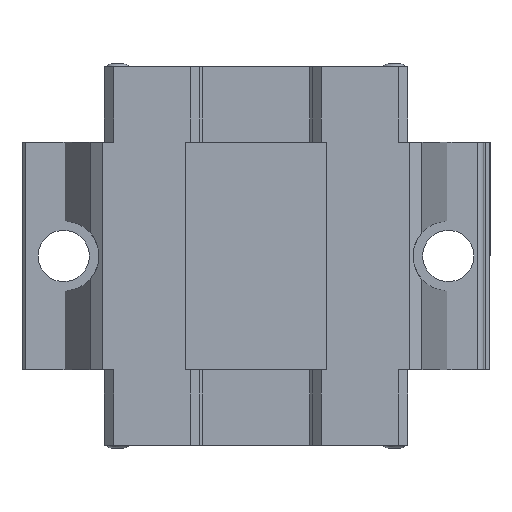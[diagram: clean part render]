
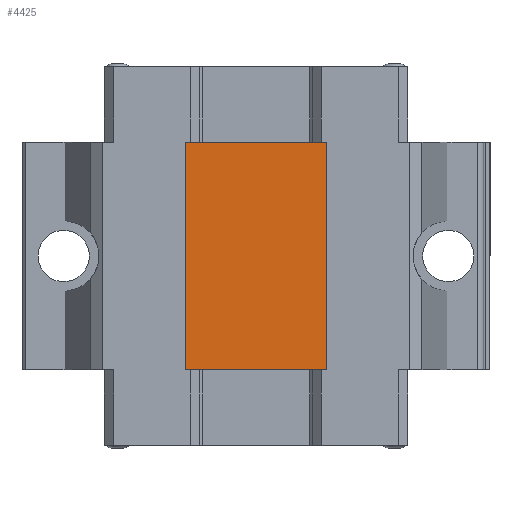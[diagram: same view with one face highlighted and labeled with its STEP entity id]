
A CAD part, front view. The second image highlights one B-rep face of the part: STEP entity #4425.
In plain terms, the highlighted planar face has unit normal (0, -1, 0).
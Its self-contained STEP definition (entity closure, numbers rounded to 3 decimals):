
#828 = VECTOR ( 'NONE', #7432, 1000. ) ;
#1272 = VERTEX_POINT ( 'NONE', #7437 ) ;
#1869 = ORIENTED_EDGE ( 'NONE', *, *, #2709, .F. ) ;
#2532 = VERTEX_POINT ( 'NONE', #6775 ) ;
#2709 = EDGE_CURVE ( 'NONE', #3790, #1272, #5825, .T. ) ;
#2821 = VECTOR ( 'NONE', #2921, 1000. ) ;
#2921 = DIRECTION ( 'NONE',  ( -1., 0., 0. ) ) ;
#3050 = PLANE ( 'NONE',  #5644 ) ;
#3082 = DIRECTION ( 'NONE',  ( 0., -1., 0. ) ) ;
#3140 = VECTOR ( 'NONE', #4145, 1000. ) ;
#3326 = LINE ( 'NONE', #3489, #3140 ) ;
#3489 = CARTESIAN_POINT ( 'NONE',  ( -11., 3.3, -35.5 ) ) ;
#3615 = CARTESIAN_POINT ( 'NONE',  ( 11., 3.3, 0. ) ) ;
#3627 = LINE ( 'NONE', #6890, #5328 ) ;
#3754 = EDGE_LOOP ( 'NONE', ( #4977, #4996, #7960, #1869 ) ) ;
#3790 = VERTEX_POINT ( 'NONE', #5798 ) ;
#4145 = DIRECTION ( 'NONE',  ( 0., 0., 1. ) ) ;
#4425 = ADVANCED_FACE ( 'NONE', ( #7130 ), #3050, .T. ) ;
#4977 = ORIENTED_EDGE ( 'NONE', *, *, #6129, .F. ) ;
#4996 = ORIENTED_EDGE ( 'NONE', *, *, #6201, .T. ) ;
#5328 = VECTOR ( 'NONE', #7545, 1000. ) ;
#5567 = VERTEX_POINT ( 'NONE', #5616 ) ;
#5616 = CARTESIAN_POINT ( 'NONE',  ( 11., 3.3, 0. ) ) ;
#5644 = AXIS2_PLACEMENT_3D ( 'NONE', #6882, #3082, #7524 ) ;
#5736 = LINE ( 'NONE', #3615, #828 ) ;
#5798 = CARTESIAN_POINT ( 'NONE',  ( 11., 3.3, -35.5 ) ) ;
#5825 = LINE ( 'NONE', #6710, #2821 ) ;
#5995 = EDGE_CURVE ( 'NONE', #1272, #2532, #3326, .T. ) ;
#6129 = EDGE_CURVE ( 'NONE', #5567, #3790, #5736, .T. ) ;
#6201 = EDGE_CURVE ( 'NONE', #5567, #2532, #3627, .T. ) ;
#6710 = CARTESIAN_POINT ( 'NONE',  ( 14., 3.3, -35.5 ) ) ;
#6775 = CARTESIAN_POINT ( 'NONE',  ( -11., 3.3, 0. ) ) ;
#6882 = CARTESIAN_POINT ( 'NONE',  ( 14., 3.3, 0. ) ) ;
#6890 = CARTESIAN_POINT ( 'NONE',  ( 14., 3.3, 0. ) ) ;
#7130 = FACE_OUTER_BOUND ( 'NONE', #3754, .T. ) ;
#7432 = DIRECTION ( 'NONE',  ( 0., 0., -1. ) ) ;
#7437 = CARTESIAN_POINT ( 'NONE',  ( -11., 3.3, -35.5 ) ) ;
#7524 = DIRECTION ( 'NONE',  ( 1., 0., 0. ) ) ;
#7545 = DIRECTION ( 'NONE',  ( -1., 0., 0. ) ) ;
#7960 = ORIENTED_EDGE ( 'NONE', *, *, #5995, .F. ) ;
